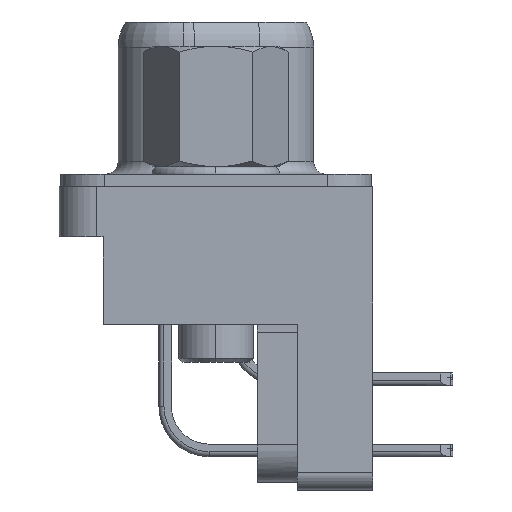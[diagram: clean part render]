
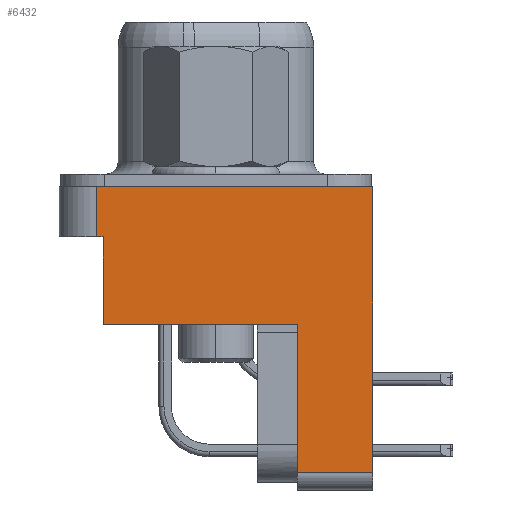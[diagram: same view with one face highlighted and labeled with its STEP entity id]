
A CAD part, left-side view. The second image highlights one B-rep face of the part: STEP entity #6432.
In plain terms, the highlighted planar face has unit normal (-1, 0, 0).
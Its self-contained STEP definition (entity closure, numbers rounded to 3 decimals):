
#10 = FACE_OUTER_BOUND ( 'NONE', #3940, .T. ) ;
#994 = CARTESIAN_POINT ( 'NONE',  ( -15.4, 4.5, -5.5 ) ) ;
#1395 = CARTESIAN_POINT ( 'NONE',  ( -15.4, -3.25, -11.4 ) ) ;
#1721 = LINE ( 'NONE', #18982, #15913 ) ;
#1859 = VECTOR ( 'NONE', #11227, 1000. ) ;
#2381 = ORIENTED_EDGE ( 'NONE', *, *, #7227, .F. ) ;
#2472 = VERTEX_POINT ( 'NONE', #7961 ) ;
#2897 = ORIENTED_EDGE ( 'NONE', *, *, #9965, .F. ) ;
#3095 = VECTOR ( 'NONE', #10287, 1000. ) ;
#3479 = CARTESIAN_POINT ( 'NONE',  ( -15.4, 4.75, 0. ) ) ;
#3611 = DIRECTION ( 'NONE',  ( 0., -1., 0. ) ) ;
#3940 = EDGE_LOOP ( 'NONE', ( #6516, #2897, #17691, #7946, #2381, #13807, #5018, #20121 ) ) ;
#4465 = CARTESIAN_POINT ( 'NONE',  ( -15.4, -3.25, -5.5 ) ) ;
#4596 = AXIS2_PLACEMENT_3D ( 'NONE', #6755, #13196, #20058 ) ;
#5018 = ORIENTED_EDGE ( 'NONE', *, *, #13003, .T. ) ;
#5056 = DIRECTION ( 'NONE',  ( 0., 0., 1. ) ) ;
#5441 = DIRECTION ( 'NONE',  ( 0., 0., -1. ) ) ;
#5627 = CARTESIAN_POINT ( 'NONE',  ( -15.4, 4.75, -2. ) ) ;
#6398 = LINE ( 'NONE', #10397, #12959 ) ;
#6432 = ADVANCED_FACE ( 'NONE', ( #10 ), #15029, .T. ) ;
#6516 = ORIENTED_EDGE ( 'NONE', *, *, #15987, .T. ) ;
#6755 = CARTESIAN_POINT ( 'NONE',  ( -15.4, 6.25, -5.5 ) ) ;
#7001 = VERTEX_POINT ( 'NONE', #1395 ) ;
#7227 = EDGE_CURVE ( 'NONE', #18323, #15474, #18739, .T. ) ;
#7362 = EDGE_CURVE ( 'NONE', #11302, #19065, #18203, .T. ) ;
#7639 = EDGE_CURVE ( 'NONE', #7001, #2472, #19746, .T. ) ;
#7785 = LINE ( 'NONE', #15118, #10648 ) ;
#7946 = ORIENTED_EDGE ( 'NONE', *, *, #14546, .T. ) ;
#7961 = CARTESIAN_POINT ( 'NONE',  ( -15.4, -6.25, -11.4 ) ) ;
#9287 = DIRECTION ( 'NONE',  ( 0., 0., 1. ) ) ;
#9965 = EDGE_CURVE ( 'NONE', #7001, #13713, #14899, .T. ) ;
#10281 = VECTOR ( 'NONE', #14050, 1000. ) ;
#10287 = DIRECTION ( 'NONE',  ( 0., -1., 0. ) ) ;
#10397 = CARTESIAN_POINT ( 'NONE',  ( -15.4, 6.25, -5.5 ) ) ;
#10557 = CARTESIAN_POINT ( 'NONE',  ( -15.4, 7.5, -2. ) ) ;
#10648 = VECTOR ( 'NONE', #5056, 1000. ) ;
#11227 = DIRECTION ( 'NONE',  ( 0., 0., 1. ) ) ;
#11302 = VERTEX_POINT ( 'NONE', #15645 ) ;
#12704 = CARTESIAN_POINT ( 'NONE',  ( -15.4, -3.25, -5.5 ) ) ;
#12959 = VECTOR ( 'NONE', #3611, 1000. ) ;
#13003 = EDGE_CURVE ( 'NONE', #21161, #19065, #19383, .T. ) ;
#13196 = DIRECTION ( 'NONE',  ( -1., 0., 0. ) ) ;
#13713 = VERTEX_POINT ( 'NONE', #12704 ) ;
#13807 = ORIENTED_EDGE ( 'NONE', *, *, #20026, .T. ) ;
#14033 = DIRECTION ( 'NONE',  ( 0., -1., 0. ) ) ;
#14050 = DIRECTION ( 'NONE',  ( 0., -1., 0. ) ) ;
#14546 = EDGE_CURVE ( 'NONE', #2472, #15474, #7785, .T. ) ;
#14899 = LINE ( 'NONE', #4465, #20986 ) ;
#15029 = PLANE ( 'NONE',  #4596 ) ;
#15118 = CARTESIAN_POINT ( 'NONE',  ( -15.4, -6.25, -5.5 ) ) ;
#15474 = VERTEX_POINT ( 'NONE', #20235 ) ;
#15645 = CARTESIAN_POINT ( 'NONE',  ( -15.4, 4.5, -5.5 ) ) ;
#15913 = VECTOR ( 'NONE', #5441, 1000. ) ;
#15987 = EDGE_CURVE ( 'NONE', #11302, #13713, #6398, .T. ) ;
#17691 = ORIENTED_EDGE ( 'NONE', *, *, #7639, .T. ) ;
#18203 = LINE ( 'NONE', #994, #1859 ) ;
#18323 = VERTEX_POINT ( 'NONE', #3479 ) ;
#18739 = LINE ( 'NONE', #21060, #10281 ) ;
#18982 = CARTESIAN_POINT ( 'NONE',  ( -15.4, 4.75, -5.5 ) ) ;
#18984 = VECTOR ( 'NONE', #14033, 1000. ) ;
#19065 = VERTEX_POINT ( 'NONE', #21003 ) ;
#19383 = LINE ( 'NONE', #10557, #3095 ) ;
#19746 = LINE ( 'NONE', #20604, #18984 ) ;
#20026 = EDGE_CURVE ( 'NONE', #18323, #21161, #1721, .T. ) ;
#20058 = DIRECTION ( 'NONE',  ( 0., 0., 1. ) ) ;
#20121 = ORIENTED_EDGE ( 'NONE', *, *, #7362, .F. ) ;
#20235 = CARTESIAN_POINT ( 'NONE',  ( -15.4, -6.25, 0. ) ) ;
#20604 = CARTESIAN_POINT ( 'NONE',  ( -15.4, -6.25, -11.4 ) ) ;
#20986 = VECTOR ( 'NONE', #9287, 1000. ) ;
#21003 = CARTESIAN_POINT ( 'NONE',  ( -15.4, 4.5, -2. ) ) ;
#21060 = CARTESIAN_POINT ( 'NONE',  ( -15.4, 6.25, 0. ) ) ;
#21161 = VERTEX_POINT ( 'NONE', #5627 ) ;
